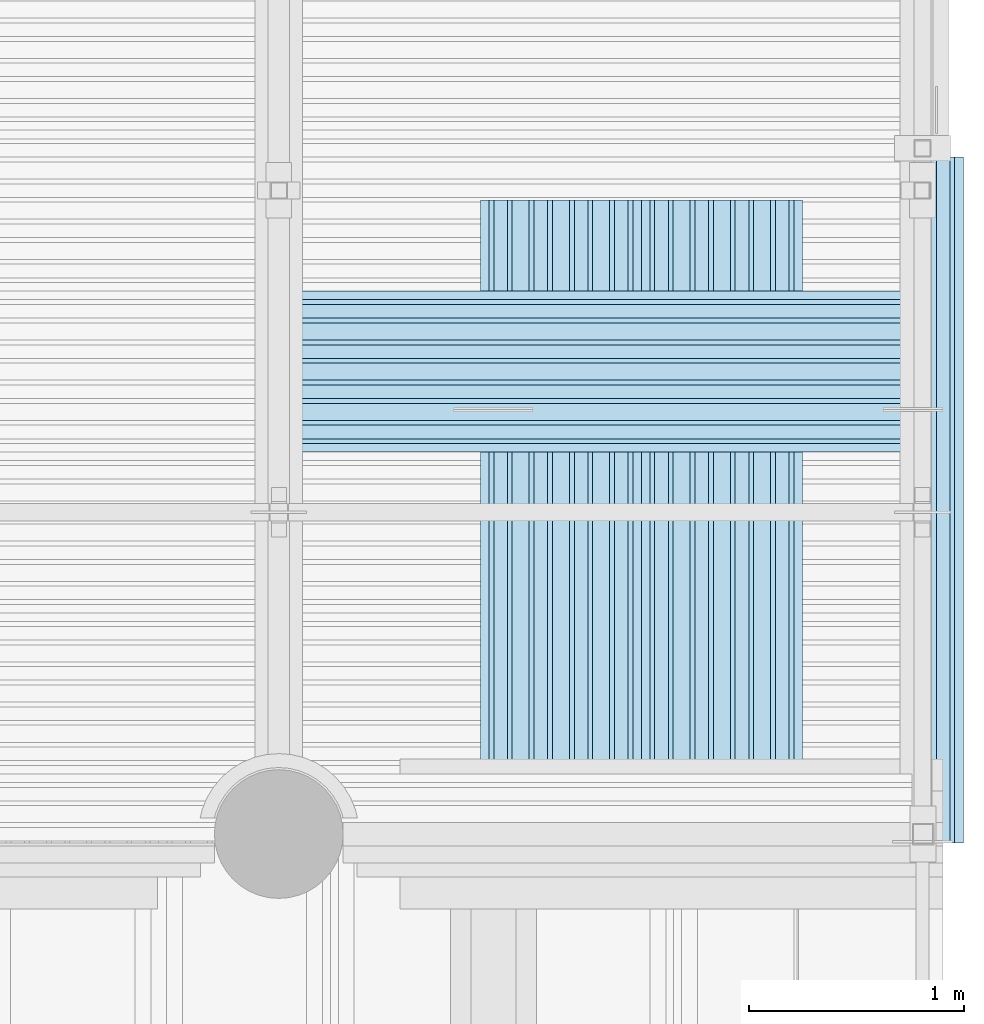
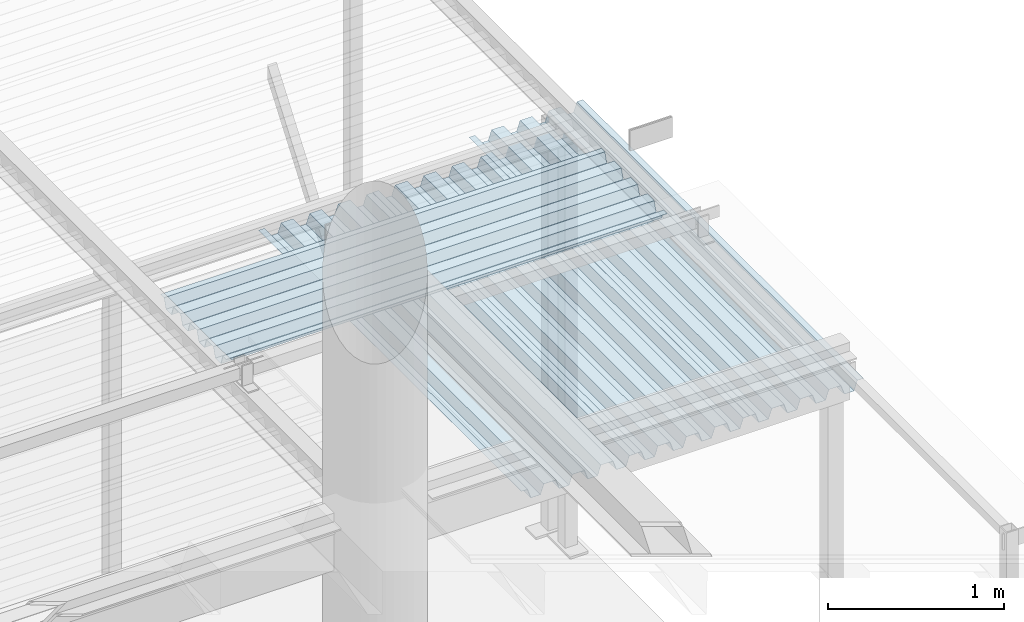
# One storey, part 76 of 98: 4 slabs.
"""IFC2X3 building model written with IfcOpenShell, lengths in millimetres."""

from ifc_helpers import new_model, entity, si_unit, converted_unit, derived_unit, direction, frame, origin_with_axes, place, context, subcontext, project, spatial, faceted_brep, material, type_object, element, save


model = new_model("IFC2X3")

# Units and contexts
model_context = context("Model", 3, precision=0.01, world=frame((0.0, 4.29681676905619e-09, 0.0)), true_north=direction((4.01073788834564e-13, 1.0)))
plan_context = context("Plan", 3, precision=0.01, world=frame((0.0, 4.29681676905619e-09, 0.0)), true_north=direction((4.01073788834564e-13, 1.0)))
body_context = subcontext(model_context, "Body", "Model", "MODEL_VIEW")
ifc_project = project(units=[converted_unit("PLANEANGLEUNIT", "DEGREE", entity("IfcPositiveLengthMeasure", 0.0174532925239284), si_unit("PLANEANGLEUNIT", "RADIAN"), dimensions=[0, 0, 0, 0, 0, 0, 0]), si_unit("AREAUNIT", "SQUARE_METRE"), si_unit("LENGTHUNIT", "METRE", prefix="MILLI"), si_unit("MASSUNIT", "GRAM", prefix="KILO"), si_unit("POWERUNIT", "WATT"), si_unit("PRESSUREUNIT", "PASCAL"), si_unit("FORCEUNIT", "NEWTON", prefix="KILO"), si_unit("ELECTRICCURRENTUNIT", "AMPERE"), si_unit("THERMODYNAMICTEMPERATUREUNIT", "DEGREE_CELSIUS"), si_unit("TIMEUNIT", "SECOND"), si_unit("VOLUMEUNIT", "CUBIC_METRE"), derived_unit("LINEARVELOCITYUNIT", [(si_unit("LENGTHUNIT", "METRE"), 1), (si_unit("TIMEUNIT", "SECOND"), -1)]), derived_unit("VOLUMETRICFLOWRATEUNIT", [(si_unit("VOLUMEUNIT", "CUBIC_METRE"), 1), (si_unit("TIMEUNIT", "SECOND"), -1)]), derived_unit("THERMALTRANSMITTANCEUNIT", [(si_unit("POWERUNIT", "WATT"), 1), (si_unit("THERMODYNAMICTEMPERATUREUNIT", "KELVIN"), -1), (si_unit("AREAUNIT", "SQUARE_METRE"), -1)])], contexts=[model_context, plan_context])

# Site, building, storey
site_placement = place(None, frame((0.0, -4.29681676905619e-09, 0.0), z_axis=(0.0, 0.0, 1.0), x_axis=(1.0, 0.0, 0.0)))
site = spatial("IfcSite", under=ifc_project, at=site_placement, Name="Gardermoen", CompositionType="ELEMENT")
building_placement = place(site_placement, frame((0.0, 4.29681676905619e-09, 0.0), z_axis=(0.0, 0.0, 1.0), x_axis=(1.0, 0.0, 0.0)))
building = spatial("IfcBuilding", under=site, at=building_placement, Name="TS", CompositionType="ELEMENT")
storey_placement = place(building_placement, origin_with_axes())
storey = spatial("IfcBuildingStorey", under=building, at=storey_placement, Name="D", CompositionType="ELEMENT", Elevation=0.0)

# Slabs
ifc_material = material(Name="STEEL/S355")
slab_type = type_object("IfcSlabType", Name="PLANJA70", PredefinedType="NOTDEFINED")
slab_1_placement = place(storey_placement, frame((531950.000000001, 416654.996695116, 206958.849718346), z_axis=(0.0, 0.0, 1.0), x_axis=(-0.999999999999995, -9.99999902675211e-08, 0.0)))
element("IfcSlab", 1, at=slab_1_placement, inside=storey, type_object=slab_type, material=ifc_material, Name="STÅLTAK", ObjectType="PLANJA70", PredefinedType="FLOOR", context=body_context, shape_type="Brep", body=[
    faceted_brep([(0.0, 375.0, 34.1500015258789), (0.0, 335.299987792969, 34.1500015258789), (2900.00079747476, 335.299987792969, 34.1500015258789), (2900.00079747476, 375.0, 34.1500015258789), (0.0, 313.010681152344, -32.1500015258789), (2900.00079747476, 313.010681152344, -32.1500015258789), (0.0, 249.489303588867, -32.1500015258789), (2900.00079747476, 249.489303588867, -32.1500015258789), (0.0, 227.199996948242, 34.1500015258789), (2900.00079747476, 227.199996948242, 34.1500015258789), (0.0, 147.800003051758, 34.1500015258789), (2900.00079747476, 147.800003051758, 34.1500015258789), (0.0, 125.280120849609, -33.1500015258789), (2900.00079747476, 125.280120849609, -33.1500015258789), (0.0, 62.2198791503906, -33.1500015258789), (2900.00079747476, 62.2198791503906, -33.1500015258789), (0.0, 39.7000007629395, 34.1500015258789), (2900.00079747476, 39.7000007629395, 34.1500015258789), (0.0, -39.7000007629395, 34.1500015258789), (2900.00079747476, -39.7000007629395, 34.1500015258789), (0.0, -62.2198791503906, -33.1500015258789), (2900.00079747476, -62.2198791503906, -33.1500015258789), (0.0, -125.280120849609, -33.1500015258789), (2900.00079747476, -125.280120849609, -33.1500015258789), (0.0, -147.800003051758, 34.1500015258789), (2900.00079747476, -147.800003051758, 34.1500015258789), (0.0, -227.199996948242, 34.1500015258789), (2900.00079747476, -227.199996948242, 34.1500015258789), (0.0, -249.719879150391, -33.1500015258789), (2900.00079747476, -249.719879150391, -33.1500015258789), (0.0, -312.781188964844, -33.1500015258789), (2900.00079747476, -312.781188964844, -33.1500015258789), (0.0, -335.070495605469, 33.1500015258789), (2900.00079747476, -335.070495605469, 33.1500015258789), (0.0, -375.0, 33.1500015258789), (2900.00079747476, -375.0, 33.1500015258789), (0.0, -375.0, 32.1500015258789), (2900.00079747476, -375.0, 32.1500015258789), (0.0, -335.789306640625, 32.1500015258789), (2900.00079747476, -335.789306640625, 32.1500015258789), (0.0, -313.5, -34.1500015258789), (2900.00079747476, -313.5, -34.1500015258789), (0.0, -249.0, -34.1500015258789), (2900.00079747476, -249.0, -34.1500015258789), (0.0, -226.480117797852, 33.1500015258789), (2900.00079747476, -226.480117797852, 33.1500015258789), (0.0, -148.519882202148, 33.1500015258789), (2900.00079747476, -148.519882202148, 33.1500015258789), (0.0, -126.0, -34.1500015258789), (2900.00079747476, -126.0, -34.1500015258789), (0.0, -61.5, -34.1500015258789), (2900.00079747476, -61.5, -34.1500015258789), (0.0, -38.9801177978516, 33.1500015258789), (2900.00079747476, -38.9801177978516, 33.1500015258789), (0.0, 38.9801177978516, 33.1500015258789), (2900.00079747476, 38.9801177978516, 33.1500015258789), (0.0, 61.5, -34.1500015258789), (2900.00079747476, 61.5, -34.1500015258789), (0.0, 126.0, -34.1500015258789), (2900.00079747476, 126.0, -34.1500015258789), (0.0, 148.519882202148, 33.1500015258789), (2900.00079747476, 148.519882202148, 33.1500015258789), (0.0, 226.481185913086, 33.1500015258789), (2900.00079747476, 226.481185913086, 33.1500015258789), (0.0, 248.770492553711, -33.1500015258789), (2900.00079747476, 248.770492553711, -33.1500015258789), (0.0, 313.7294921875, -33.1500015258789), (2900.00079747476, 313.7294921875, -33.1500015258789), (0.0, 336.018798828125, 33.1500015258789), (2900.00079747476, 336.018798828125, 33.1500015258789), (0.0, 375.0, 33.1500015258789), (2900.00079747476, 375.0, 33.1500015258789)], [[[0, 1, 2, 3]], [[1, 4, 5, 2]], [[4, 6, 7, 5]], [[6, 8, 9, 7]], [[8, 10, 11, 9]], [[10, 12, 13, 11]], [[12, 14, 15, 13]], [[14, 16, 17, 15]], [[16, 18, 19, 17]], [[18, 20, 21, 19]], [[22, 23, 21, 20]], [[22, 24, 25, 23]], [[24, 26, 27, 25]], [[26, 28, 29, 27]], [[28, 30, 31, 29]], [[30, 32, 33, 31]], [[32, 34, 35, 33]], [[34, 36, 37, 35]], [[36, 38, 39, 37]], [[38, 40, 41, 39]], [[40, 42, 43, 41]], [[42, 44, 45, 43]], [[44, 46, 47, 45]], [[46, 48, 49, 47]], [[48, 50, 51, 49]], [[50, 52, 53, 51]], [[52, 54, 55, 53]], [[54, 56, 57, 55]], [[56, 58, 59, 57]], [[58, 60, 61, 59]], [[60, 62, 63, 61]], [[62, 64, 65, 63]], [[64, 66, 67, 65]], [[66, 68, 69, 67]], [[68, 70, 71, 69]], [[70, 0, 3, 71]], [[5, 7, 9, 11, 13, 15, 17, 19, 21, 23, 25, 27, 29, 31, 33, 35, 37, 39, 41, 43, 45, 47, 49, 51, 53, 55, 57, 59, 61, 63, 65, 67, 69, 71, 3, 2]], [[70, 68, 66, 64, 62, 60, 58, 56, 54, 52, 50, 48, 46, 44, 42, 40, 38, 36, 34, 32, 30, 28, 26, 24, 22, 20, 18, 16, 14, 12, 10, 8, 6, 4, 1, 0]]]),
])
slab_2_placement = place(storey_placement, frame((530314.996695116, 414458.999999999, 206834.129718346), z_axis=(0.0, 0.0, 1.0), x_axis=(0.0, 1.0, 0.0)))
element("IfcSlab", 2, at=slab_2_placement, inside=storey, type_object=slab_type, material=ifc_material, Name="STÅLTAK", ObjectType="PLANJA70", PredefinedType="FLOOR", context=body_context, shape_type="Brep", body=[
    faceted_brep([(0.0, 375.0, 34.1500015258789), (0.0, 335.299987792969, 34.1500015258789), (2995.66049790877, 335.299987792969, 34.1500015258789), (2995.66049790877, 375.0, 34.1500015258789), (0.0, 313.010681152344, -32.1500015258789), (2995.66049790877, 313.010681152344, -32.1500015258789), (0.0, 249.489303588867, -32.1500015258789), (2995.66049790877, 249.489303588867, -32.1500015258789), (0.0, 227.199996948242, 34.1500015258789), (2995.66049790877, 227.199996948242, 34.1500015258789), (0.0, 147.800003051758, 34.1500015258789), (2995.66049790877, 147.800003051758, 34.1500015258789), (0.0, 125.280120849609, -33.1500015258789), (2995.66049790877, 125.280120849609, -33.1500015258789), (0.0, 62.2198791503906, -33.1500015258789), (2995.66049790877, 62.2198791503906, -33.1500015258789), (0.0, 39.7000007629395, 34.1500015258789), (2995.66049790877, 39.7000007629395, 34.1500015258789), (0.0, -39.7000007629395, 34.1500015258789), (2995.66049790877, -39.7000007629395, 34.1500015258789), (0.0, -62.2198791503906, -33.1500015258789), (2995.66049790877, -62.2198791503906, -33.1500015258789), (0.0, -125.280120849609, -33.1500015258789), (2995.66049790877, -125.280120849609, -33.1500015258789), (0.0, -147.800003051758, 34.1500015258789), (2995.66049790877, -147.800003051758, 34.1500015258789), (0.0, -227.199996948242, 34.1500015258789), (2995.66049790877, -227.199996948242, 34.1500015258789), (0.0, -249.719879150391, -33.1500015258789), (2995.66049790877, -249.719879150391, -33.1500015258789), (0.0, -312.781188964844, -33.1500015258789), (2995.66049790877, -312.781188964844, -33.1500015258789), (0.0, -335.070495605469, 33.1500015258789), (2995.66049790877, -335.070495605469, 33.1500015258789), (0.0, -375.0, 33.1500015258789), (2995.66049790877, -375.0, 33.1500015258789), (0.0, -375.0, 32.1500015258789), (2995.66049790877, -375.0, 32.1500015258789), (0.0, -335.789306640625, 32.1500015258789), (2995.66049790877, -335.789306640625, 32.1500015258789), (0.0, -313.5, -34.1500015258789), (2995.66049790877, -313.5, -34.1500015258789), (0.0, -249.0, -34.1500015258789), (2995.66049790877, -249.0, -34.1500015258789), (0.0, -226.480117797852, 33.1500015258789), (2995.66049790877, -226.480117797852, 33.1500015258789), (0.0, -148.519882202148, 33.1500015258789), (2995.66049790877, -148.519882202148, 33.1500015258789), (0.0, -126.0, -34.1500015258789), (2995.66049790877, -126.0, -34.1500015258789), (0.0, -61.5, -34.1500015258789), (2995.66049790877, -61.5, -34.1500015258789), (0.0, -38.9801177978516, 33.1500015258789), (2995.66049790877, -38.9801177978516, 33.1500015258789), (0.0, 38.9801177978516, 33.1500015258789), (2995.66049790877, 38.9801177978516, 33.1500015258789), (0.0, 61.5, -34.1500015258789), (2995.66049790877, 61.5, -34.1500015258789), (0.0, 126.0, -34.1500015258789), (2995.66049790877, 126.0, -34.1500015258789), (0.0, 148.519882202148, 33.1500015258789), (2995.66049790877, 148.519882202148, 33.1500015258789), (0.0, 226.481185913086, 33.1500015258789), (2995.66049790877, 226.481185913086, 33.1500015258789), (0.0, 248.770492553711, -33.1500015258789), (2995.66049790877, 248.770492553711, -33.1500015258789), (0.0, 313.7294921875, -33.1500015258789), (2995.66049790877, 313.7294921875, -33.1500015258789), (0.0, 336.018798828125, 33.1500015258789), (2995.66049790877, 336.018798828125, 33.1500015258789), (0.0, 375.0, 33.1500015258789), (2995.66049790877, 375.0, 33.1500015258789)], [[[0, 1, 2, 3]], [[1, 4, 5, 2]], [[4, 6, 7, 5]], [[6, 8, 9, 7]], [[8, 10, 11, 9]], [[10, 12, 13, 11]], [[12, 14, 15, 13]], [[14, 16, 17, 15]], [[16, 18, 19, 17]], [[18, 20, 21, 19]], [[20, 22, 23, 21]], [[22, 24, 25, 23]], [[24, 26, 27, 25]], [[26, 28, 29, 27]], [[28, 30, 31, 29]], [[30, 32, 33, 31]], [[32, 34, 35, 33]], [[34, 36, 37, 35]], [[36, 38, 39, 37]], [[38, 40, 41, 39]], [[40, 42, 43, 41]], [[42, 44, 45, 43]], [[44, 46, 47, 45]], [[46, 48, 49, 47]], [[48, 50, 51, 49]], [[50, 52, 53, 51]], [[52, 54, 55, 53]], [[54, 56, 57, 55]], [[56, 58, 59, 57]], [[58, 60, 61, 59]], [[60, 62, 63, 61]], [[62, 64, 65, 63]], [[64, 66, 67, 65]], [[66, 68, 69, 67]], [[68, 70, 71, 69]], [[70, 0, 3, 71]], [[5, 7, 9, 11, 13, 15, 17, 19, 21, 23, 25, 27, 29, 31, 33, 35, 37, 39, 41, 43, 45, 47, 49, 51, 53, 55, 57, 59, 61, 63, 65, 67, 69, 71, 3, 2]], [[70, 68, 66, 64, 62, 60, 58, 56, 54, 52, 50, 48, 46, 44, 42, 40, 38, 36, 34, 32, 30, 28, 26, 24, 22, 20, 18, 16, 14, 12, 10, 8, 6, 4, 1, 0]]]),
])
slab_3_placement = place(storey_placement, frame((531064.996695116, 414458.999999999, 206834.129718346), z_axis=(0.0, 0.0, 1.0), x_axis=(0.0, 1.0, 0.0)))
element("IfcSlab", 3, at=slab_3_placement, inside=storey, type_object=slab_type, material=ifc_material, Name="STÅLTAK", ObjectType="PLANJA70", PredefinedType="FLOOR", context=body_context, shape_type="Brep", body=[
    faceted_brep([(0.0, 375.0, 34.1500015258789), (0.0, 335.299987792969, 34.1500015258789), (2995.66049790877, 335.299987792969, 34.1500015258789), (2995.66049790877, 375.0, 34.1500015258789), (0.0, 313.010681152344, -32.1500015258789), (2995.66049790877, 313.010681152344, -32.1500015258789), (0.0, 249.489303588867, -32.1500015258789), (2995.66049790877, 249.489303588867, -32.1500015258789), (0.0, 227.199996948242, 34.1500015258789), (2995.66049790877, 227.199996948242, 34.1500015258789), (0.0, 147.800003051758, 34.1500015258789), (2995.66049790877, 147.800003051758, 34.1500015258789), (0.0, 125.280120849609, -33.1500015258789), (2995.66049790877, 125.280120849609, -33.1500015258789), (0.0, 62.2198791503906, -33.1500015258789), (2995.66049790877, 62.2198791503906, -33.1500015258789), (0.0, 39.7000007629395, 34.1500015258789), (2995.66049790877, 39.7000007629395, 34.1500015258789), (0.0, -39.7000007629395, 34.1500015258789), (2995.66049790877, -39.7000007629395, 34.1500015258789), (0.0, -62.2198791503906, -33.1500015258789), (2995.66049790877, -62.2198791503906, -33.1500015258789), (0.0, -125.280120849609, -33.1500015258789), (2995.66049790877, -125.280120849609, -33.1500015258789), (0.0, -147.800003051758, 34.1500015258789), (2995.66049790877, -147.800003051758, 34.1500015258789), (0.0, -227.199996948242, 34.1500015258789), (2995.66049790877, -227.199996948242, 34.1500015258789), (0.0, -249.719879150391, -33.1500015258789), (2995.66049790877, -249.719879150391, -33.1500015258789), (0.0, -312.781188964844, -33.1500015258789), (2995.66049790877, -312.781188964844, -33.1500015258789), (0.0, -335.070495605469, 33.1500015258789), (2995.66049790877, -335.070495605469, 33.1500015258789), (0.0, -375.0, 33.1500015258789), (2995.66049790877, -375.0, 33.1500015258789), (0.0, -375.0, 32.1500015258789), (2995.66049790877, -375.0, 32.1500015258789), (0.0, -335.789306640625, 32.1500015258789), (2995.66049790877, -335.789306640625, 32.1500015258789), (0.0, -313.5, -34.1500015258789), (2995.66049790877, -313.5, -34.1500015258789), (0.0, -249.0, -34.1500015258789), (2995.66049790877, -249.0, -34.1500015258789), (0.0, -226.480117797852, 33.1500015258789), (2995.66049790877, -226.480117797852, 33.1500015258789), (0.0, -148.519882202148, 33.1500015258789), (2995.66049790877, -148.519882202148, 33.1500015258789), (0.0, -126.0, -34.1500015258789), (2995.66049790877, -126.0, -34.1500015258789), (0.0, -61.5, -34.1500015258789), (2995.66049790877, -61.5, -34.1500015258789), (0.0, -38.9801177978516, 33.1500015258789), (2995.66049790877, -38.9801177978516, 33.1500015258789), (0.0, 38.9801177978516, 33.1500015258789), (2995.66049790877, 38.9801177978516, 33.1500015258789), (0.0, 61.5, -34.1500015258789), (2995.66049790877, 61.5, -34.1500015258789), (0.0, 126.0, -34.1500015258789), (2995.66049790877, 126.0, -34.1500015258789), (0.0, 148.519882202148, 33.1500015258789), (2995.66049790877, 148.519882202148, 33.1500015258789), (0.0, 226.481185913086, 33.1500015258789), (2995.66049790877, 226.481185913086, 33.1500015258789), (0.0, 248.770492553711, -33.1500015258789), (2995.66049790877, 248.770492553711, -33.1500015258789), (0.0, 313.7294921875, -33.1500015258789), (2995.66049790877, 313.7294921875, -33.1500015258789), (0.0, 336.018798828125, 33.1500015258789), (2995.66049790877, 336.018798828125, 33.1500015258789), (0.0, 375.0, 33.1500015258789), (2995.66049790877, 375.0, 33.1500015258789)], [[[0, 1, 2, 3]], [[1, 4, 5, 2]], [[4, 6, 7, 5]], [[6, 8, 9, 7]], [[8, 10, 11, 9]], [[10, 12, 13, 11]], [[12, 14, 15, 13]], [[14, 16, 17, 15]], [[16, 18, 19, 17]], [[18, 20, 21, 19]], [[20, 22, 23, 21]], [[22, 24, 25, 23]], [[24, 26, 27, 25]], [[26, 28, 29, 27]], [[28, 30, 31, 29]], [[30, 32, 33, 31]], [[32, 34, 35, 33]], [[34, 36, 37, 35]], [[36, 38, 39, 37]], [[38, 40, 41, 39]], [[40, 42, 43, 41]], [[42, 44, 45, 43]], [[44, 46, 47, 45]], [[46, 48, 49, 47]], [[48, 50, 51, 49]], [[50, 52, 53, 51]], [[52, 54, 55, 53]], [[54, 56, 57, 55]], [[56, 58, 59, 57]], [[58, 60, 61, 59]], [[60, 62, 63, 61]], [[62, 64, 65, 63]], [[64, 66, 67, 65]], [[66, 68, 69, 67]], [[68, 70, 71, 69]], [[70, 0, 3, 71]], [[5, 7, 9, 11, 13, 15, 17, 19, 21, 23, 25, 27, 29, 31, 33, 35, 37, 39, 41, 43, 45, 47, 49, 51, 53, 55, 57, 59, 61, 63, 65, 67, 69, 71, 3, 2]], [[70, 68, 66, 64, 62, 60, 58, 56, 54, 52, 50, 48, 46, 44, 42, 40, 38, 36, 34, 32, 30, 28, 26, 24, 22, 20, 18, 16, 14, 12, 10, 8, 6, 4, 1, 0]]]),
])
slab_4_placement = place(storey_placement, frame((531814.996695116, 414458.999999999, 206834.129718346), z_axis=(0.0, 0.0, 1.0), x_axis=(0.0, 1.0, 0.0)))
element("IfcSlab", 4, at=slab_4_placement, inside=storey, type_object=slab_type, material=ifc_material, Name="STÅLTAK", ObjectType="PLANJA70", PredefinedType="FLOOR", context=body_context, shape_type="Brep", body=[
    faceted_brep([(0.0, 375.0, 34.1500015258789), (0.0, 335.299987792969, 34.1500015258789), (3195.66079747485, 335.299987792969, 34.1500015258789), (3195.66079747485, 375.0, 34.1500015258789), (0.0, 313.010681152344, -32.1500015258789), (3195.66079747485, 313.010681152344, -32.1500015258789), (0.0, 249.489303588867, -32.1500015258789), (3195.66079747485, 249.489303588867, -32.1500015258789), (0.0, 227.199996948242, 34.1500015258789), (3195.66079747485, 227.199996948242, 34.1500015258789), (0.0, 147.800003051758, 34.1500015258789), (3195.66079747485, 147.800003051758, 34.1500015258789), (0.0, 125.280120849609, -33.1500015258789), (3195.66079747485, 125.280120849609, -33.1500015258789), (0.0, 62.2198791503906, -33.1500015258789), (3195.66079747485, 62.2198791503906, -33.1500015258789), (0.0, 39.7000007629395, 34.1500015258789), (3195.66079747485, 39.7000007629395, 34.1500015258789), (0.0, -39.7000007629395, 34.1500015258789), (3195.66079747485, -39.7000007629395, 34.1500015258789), (0.0, -62.2198791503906, -33.1500015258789), (3195.66079747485, -62.2198791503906, -33.1500015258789), (0.0, -125.280120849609, -33.1500015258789), (3195.66079747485, -125.280120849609, -33.1500015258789), (0.0, -147.800003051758, 34.1500015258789), (3195.66079747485, -147.800003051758, 34.1500015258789), (0.0, -227.199996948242, 34.1500015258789), (3195.66079747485, -227.199996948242, 34.1500015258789), (0.0, -249.719879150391, -33.1500015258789), (3195.66079747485, -249.719879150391, -33.1500015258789), (0.0, -312.781188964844, -33.1500015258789), (3195.66079747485, -312.781188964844, -33.1500015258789), (0.0, -335.070495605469, 33.1500015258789), (3195.66079747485, -335.070495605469, 33.1500015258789), (0.0, -375.0, 33.1500015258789), (3195.66079747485, -375.0, 33.1500015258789), (0.0, -375.0, 32.1500015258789), (3195.66079747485, -375.0, 32.1500015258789), (0.0, -335.789306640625, 32.1500015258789), (3195.66079747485, -335.789306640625, 32.1500015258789), (0.0, -313.5, -34.1500015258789), (3195.66079747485, -313.5, -34.1500015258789), (0.0, -249.0, -34.1500015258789), (3195.66079747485, -249.0, -34.1500015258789), (0.0, -226.480117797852, 33.1500015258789), (3195.66079747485, -226.480117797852, 33.1500015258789), (0.0, -148.519882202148, 33.1500015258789), (3195.66079747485, -148.519882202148, 33.1500015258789), (0.0, -126.0, -34.1500015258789), (3195.66079747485, -126.0, -34.1500015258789), (0.0, -61.5, -34.1500015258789), (3195.66079747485, -61.5, -34.1500015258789), (0.0, -38.9801177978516, 33.1500015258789), (3195.66079747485, -38.9801177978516, 33.1500015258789), (0.0, 38.9801177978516, 33.1500015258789), (3195.66079747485, 38.9801177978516, 33.1500015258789), (0.0, 61.5, -34.1500015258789), (3195.66079747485, 61.5, -34.1500015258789), (0.0, 126.0, -34.1500015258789), (3195.66079747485, 126.0, -34.1500015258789), (0.0, 148.519882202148, 33.1500015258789), (3195.66079747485, 148.519882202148, 33.1500015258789), (0.0, 226.481185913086, 33.1500015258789), (3195.66079747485, 226.481185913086, 33.1500015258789), (0.0, 248.770492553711, -33.1500015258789), (3195.66079747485, 248.770492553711, -33.1500015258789), (0.0, 313.7294921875, -33.1500015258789), (3195.66079747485, 313.7294921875, -33.1500015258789), (0.0, 336.018798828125, 33.1500015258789), (3195.66079747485, 336.018798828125, 33.1500015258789), (0.0, 375.0, 33.1500015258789), (3195.66079747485, 375.0, 33.1500015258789)], [[[0, 1, 2, 3]], [[1, 4, 5, 2]], [[4, 6, 7, 5]], [[6, 8, 9, 7]], [[8, 10, 11, 9]], [[10, 12, 13, 11]], [[12, 14, 15, 13]], [[14, 16, 17, 15]], [[16, 18, 19, 17]], [[18, 20, 21, 19]], [[20, 22, 23, 21]], [[22, 24, 25, 23]], [[24, 26, 27, 25]], [[26, 28, 29, 27]], [[28, 30, 31, 29]], [[30, 32, 33, 31]], [[32, 34, 35, 33]], [[34, 36, 37, 35]], [[36, 38, 39, 37]], [[38, 40, 41, 39]], [[40, 42, 43, 41]], [[42, 44, 45, 43]], [[44, 46, 47, 45]], [[46, 48, 49, 47]], [[48, 50, 51, 49]], [[50, 52, 53, 51]], [[52, 54, 55, 53]], [[54, 56, 57, 55]], [[56, 58, 59, 57]], [[58, 60, 61, 59]], [[60, 62, 63, 61]], [[62, 64, 65, 63]], [[64, 66, 67, 65]], [[66, 68, 69, 67]], [[68, 70, 71, 69]], [[70, 0, 3, 71]], [[5, 7, 9, 11, 13, 15, 17, 19, 21, 23, 25, 27, 29, 31, 33, 35, 37, 39, 41, 43, 45, 47, 49, 51, 53, 55, 57, 59, 61, 63, 65, 67, 69, 71, 3, 2]], [[70, 68, 66, 64, 62, 60, 58, 56, 54, 52, 50, 48, 46, 44, 42, 40, 38, 36, 34, 32, 30, 28, 26, 24, 22, 20, 18, 16, 14, 12, 10, 8, 6, 4, 1, 0]]]),
])

save(model, "model.ifc")
